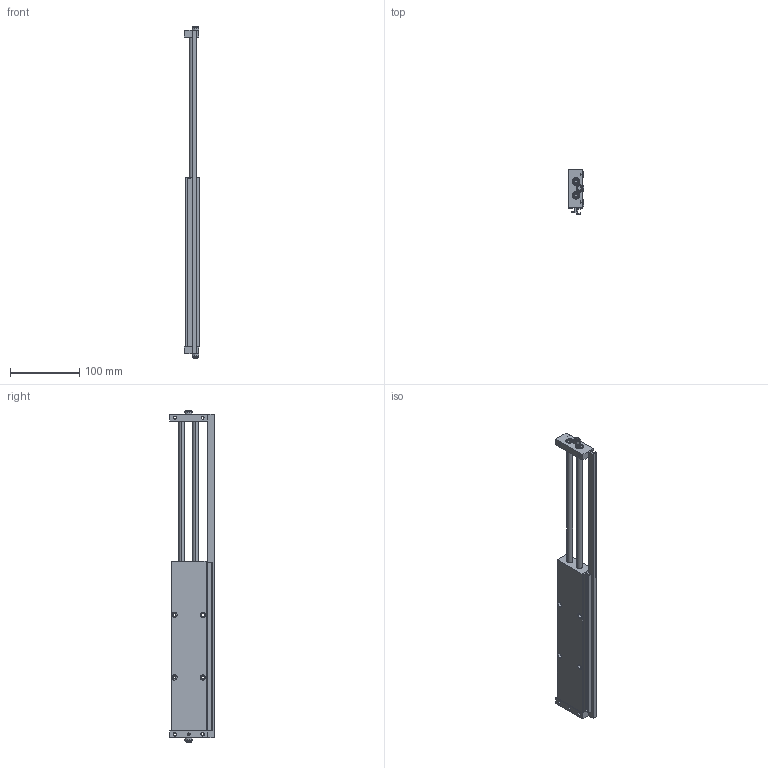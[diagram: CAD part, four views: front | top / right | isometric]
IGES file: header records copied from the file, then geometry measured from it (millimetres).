
Global section: file name: No Iges File Name specified; native system: Autodesk Inventor 2011; preprocessor: AutoDesk Inventor Iges Exporter R2011; author: nozzaem1; date: 20110516.134049; units: millimetre
Bounding box: 22 x 64.6 x 478 mm (x, y, z)
Volume: 313938.6 mm3; surface area: 113449.1 mm2
Topology: 8 solids, 8 shells, 295 faces, 686 edges, 447 vertices
Faces by surface type: plane 122, bspline 95, cylinder 38, revolution 20, cone 20
